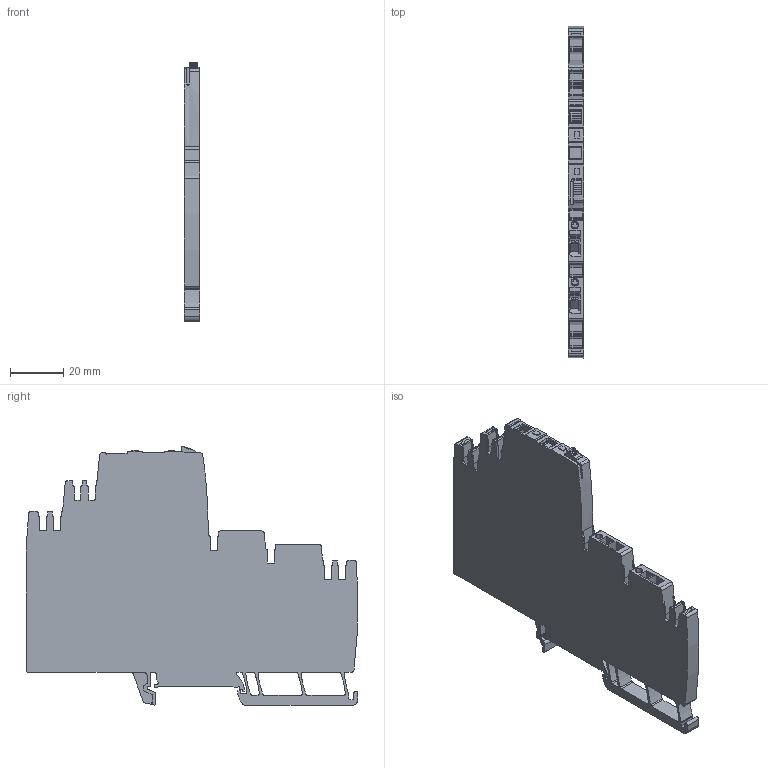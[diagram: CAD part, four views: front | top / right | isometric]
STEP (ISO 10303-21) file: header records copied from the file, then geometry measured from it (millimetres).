
FILE_DESCRIPTION(('CATIA V5R24 STEP','CAx-IF Rec.Pracs.--- Model Styling and Organization---1.2---2011-12-15'),'2;1');
FILE_NAME('\\SRVDE107\Germany\WMC\1_WMC_Input\Step_BU_PA\2082000000.stp','2017-09-05T07:59:45+00:00',('Weidmueller Interface'),('WI'),'CATIA Version 5-6 Release 2014 SP4','CATIA V5 STEP AP214','none');
FILE_SCHEMA(('AUTOMOTIVE_DESIGN { 1 0 10303 214 1 1 1 1 }'));
Length unit declared in the file: millimetre
Products named in the file (1): 2082000000
Bounding box: 6 x 125.07 x 97.53 mm (x, y, z)
Volume: 46562.8 mm3; surface area: 23776.9 mm2
Topology: 7 solids, 7 shells, 984 faces, 2917 edges, 1970 vertices
Faces by surface type: plane 528, cylinder 431, extrusion 23, bspline 2
Entity records: 33755 total; most frequent: CARTESIAN_POINT 7277, ORIENTED_EDGE 5834, DIRECTION 4367, EDGE_CURVE 2917, VERTEX_POINT 1970, VECTOR 1924, LINE 1901, AXIS2_PLACEMENT_3D 1651
